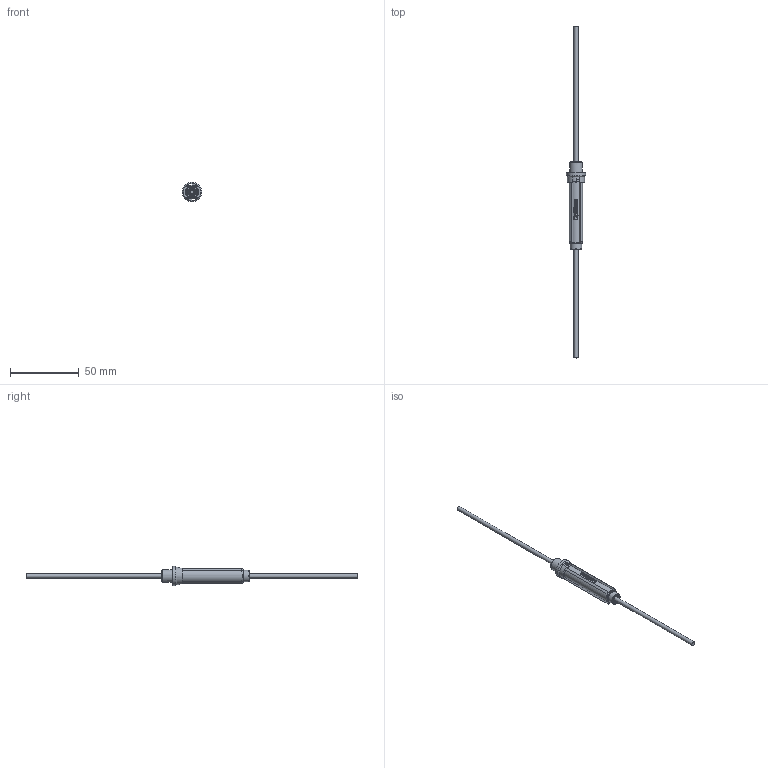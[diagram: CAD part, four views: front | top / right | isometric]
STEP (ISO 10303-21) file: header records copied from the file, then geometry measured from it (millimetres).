
FILE_DESCRIPTION(/* description */ (''),/* implementation_level */ '2;1');
FILE_NAME(/* name */ 'C:\Users\Hani\Desktop\work\LPA-05\LPA-05.stp',/* time_stamp */ '2021-07-23T16:34:50-07:00',/* author */ ('Hani'),/* organization */ (''),/* preprocessor_version */ 'ST-DEVELOPER v17',/* originating_system */ 'Autodesk Inventor 2019',/* authorisation */ '');
FILE_SCHEMA (('AUTOMOTIVE_DESIGN { 1 0 10303 214 3 1 1 }'));
Length unit declared in the file: inch
Products named in the file (5): LPA-05; LPA-05_1; LPA-05-Top; Spring2; wire
Assembly tree (5 placements, depth 2):
  LPA-05
    LPA-05_1
    LPA-05-Top
    Spring2
    wire  x2
Bounding box: 13.97 x 241.94 x 13.97 mm (x, y, z)
Volume: 3355 mm3; surface area: 7091.9 mm2
Topology: 5 solids, 5 shells, 236 faces, 638 edges, 424 vertices
Faces by surface type: plane 109, bspline 73, cylinder 42, torus 9, cone 3
Full cylindrical faces by diameter (mm): 2.997 x2, 5.334 x1, 5.588 x1, 6.096 x1, 7.874 x1, 8.382 x1, 9.144 x1, 9.271 x1, 13.97 x1
Entity records: 12421 total; most frequent: CARTESIAN_POINT 6613, ORIENTED_EDGE 1270, DIRECTION 1020, EDGE_CURVE 635, VERTEX_POINT 422, AXIS2_PLACEMENT_3D 359, LINE 302, VECTOR 302
